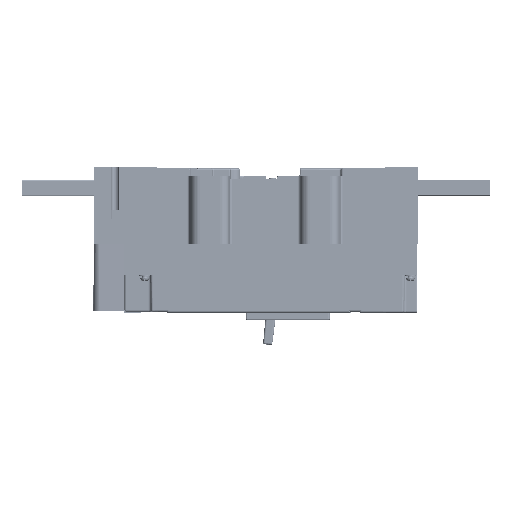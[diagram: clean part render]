
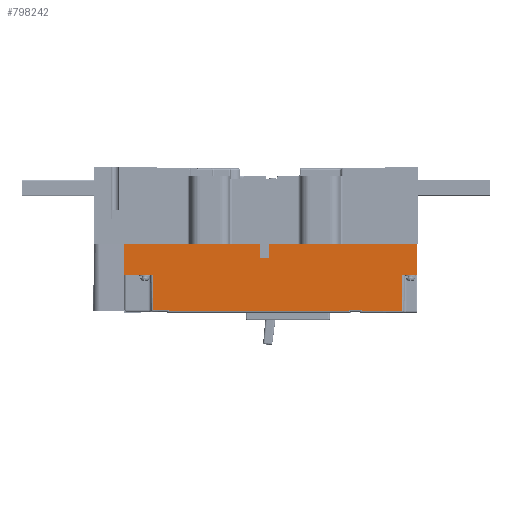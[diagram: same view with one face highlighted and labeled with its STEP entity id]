
A CAD part, left-side view. The second image highlights one B-rep face of the part: STEP entity #798242.
In plain terms, the highlighted planar face has unit normal (-1, 0, 0).
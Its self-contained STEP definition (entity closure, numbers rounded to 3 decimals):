
#53418 = CARTESIAN_POINT ( 'NONE',  ( -152.632, -4.608, -184.937 ) ) ;
#53421 = DIRECTION ( 'NONE',  ( 0., 0., -1. ) ) ;
#53425 = DIRECTION ( 'NONE',  ( 0., 0., -1. ) ) ;
#53497 = DIRECTION ( 'NONE',  ( 0., -1., 0. ) ) ;
#53533 = CARTESIAN_POINT ( 'NONE',  ( -152.632, -2.608, -182.937 ) ) ;
#53556 = DIRECTION ( 'NONE',  ( 0., -0.009, 1. ) ) ;
#53559 = CARTESIAN_POINT ( 'NONE',  ( -152.632, -49.968, -142.419 ) ) ;
#53921 = CARTESIAN_POINT ( 'NONE',  ( -152.632, -2.608, -181.737 ) ) ;
#54437 = CARTESIAN_POINT ( 'NONE',  ( -152.632, 210.957, -184.937 ) ) ;
#54903 = CARTESIAN_POINT ( 'NONE',  ( -152.632, -2.608, -182.937 ) ) ;
#55743 = DIRECTION ( 'NONE',  ( 0., -1., 0. ) ) ;
#56246 = CARTESIAN_POINT ( 'NONE',  ( -152.632, 9.767, -183.737 ) ) ;
#56514 = DIRECTION ( 'NONE',  ( 0., 0., 1. ) ) ;
#56766 = DIRECTION ( 'NONE',  ( 0., -1., 0. ) ) ;
#84056 = VERTEX_POINT ( 'NONE', #687552 ) ;
#84125 = VERTEX_POINT ( 'NONE', #686807 ) ;
#86497 = VERTEX_POINT ( 'NONE', #687467 ) ;
#86536 = VERTEX_POINT ( 'NONE', #687882 ) ;
#86776 = VERTEX_POINT ( 'NONE', #706342 ) ;
#86849 = VERTEX_POINT ( 'NONE', #705840 ) ;
#87485 = VERTEX_POINT ( 'NONE', #701079 ) ;
#87517 = VERTEX_POINT ( 'NONE', #700886 ) ;
#87526 = VERTEX_POINT ( 'NONE', #700818 ) ;
#87533 = VERTEX_POINT ( 'NONE', #700828 ) ;
#87540 = VERTEX_POINT ( 'NONE', #700651 ) ;
#87546 = VERTEX_POINT ( 'NONE', #700665 ) ;
#87553 = VERTEX_POINT ( 'NONE', #700604 ) ;
#87560 = VERTEX_POINT ( 'NONE', #700474 ) ;
#176800 = EDGE_CURVE ( 'NONE', #87560, #86849, #215712, .T. ) ;
#176816 = EDGE_CURVE ( 'NONE', #87553, #87560, #215792, .T. ) ;
#176832 = EDGE_CURVE ( 'NONE', #87546, #87553, #215812, .T. ) ;
#176847 = EDGE_CURVE ( 'NONE', #87540, #87546, #215856, .T. ) ;
#176863 = EDGE_CURVE ( 'NONE', #87533, #87540, #215896, .T. ) ;
#176879 = EDGE_CURVE ( 'NONE', #87526, #87533, #215940, .T. ) ;
#176885 = EDGE_CURVE ( 'NONE', #87517, #87526, #215922, .T. ) ;
#176909 = EDGE_CURVE ( 'NONE', #87485, #87517, #216001, .T. ) ;
#176927 = EDGE_CURVE ( 'NONE', #86497, #87485, #216034, .T. ) ;
#176941 = EDGE_CURVE ( 'NONE', #84056, #86536, #216078, .T. ) ;
#177071 = EDGE_CURVE ( 'NONE', #86776, #84125, #216355, .T. ) ;
#181750 = ORIENTED_EDGE ( 'NONE', *, *, #403054, .T. ) ;
#181764 = ORIENTED_EDGE ( 'NONE', *, *, #398929, .T. ) ;
#181783 = ORIENTED_EDGE ( 'NONE', *, *, #176941, .T. ) ;
#181800 = ORIENTED_EDGE ( 'NONE', *, *, #177071, .T. ) ;
#181819 = ORIENTED_EDGE ( 'NONE', *, *, #176847, .T. ) ;
#181839 = ORIENTED_EDGE ( 'NONE', *, *, #176832, .T. ) ;
#181856 = ORIENTED_EDGE ( 'NONE', *, *, #176816, .T. ) ;
#181876 = ORIENTED_EDGE ( 'NONE', *, *, #176800, .T. ) ;
#181894 = ORIENTED_EDGE ( 'NONE', *, *, #176879, .T. ) ;
#181910 = ORIENTED_EDGE ( 'NONE', *, *, #176863, .T. ) ;
#181929 = ORIENTED_EDGE ( 'NONE', *, *, #176909, .T. ) ;
#181948 = ORIENTED_EDGE ( 'NONE', *, *, #176885, .T. ) ;
#181967 = ORIENTED_EDGE ( 'NONE', *, *, #402672, .T. ) ;
#181987 = ORIENTED_EDGE ( 'NONE', *, *, #176927, .T. ) ;
#215712 = LINE ( 'NONE', #53559, #215730 ) ;
#215730 = VECTOR ( 'NONE', #53556, 1000. ) ;
#215792 = LINE ( 'NONE', #53533, #215796 ) ;
#215796 = VECTOR ( 'NONE', #53497, 1000. ) ;
#215808 = VECTOR ( 'NONE', #53425, 1000. ) ;
#215812 = LINE ( 'NONE', #53418, #215808 ) ;
#215856 = LINE ( 'NONE', #53921, #215868 ) ;
#215868 = VECTOR ( 'NONE', #56766, 1000. ) ;
#215884 = VECTOR ( 'NONE', #55743, 1000. ) ;
#215890 = VECTOR ( 'NONE', #56514, 1000. ) ;
#215896 = LINE ( 'NONE', #56246, #215890 ) ;
#215922 = LINE ( 'NONE', #54437, #215954 ) ;
#215940 = LINE ( 'NONE', #54903, #215884 ) ;
#215954 = VECTOR ( 'NONE', #53421, 1000. ) ;
#215990 = VECTOR ( 'NONE', #676400, 1000. ) ;
#216001 = LINE ( 'NONE', #676416, #215990 ) ;
#216032 = VECTOR ( 'NONE', #676199, 1000. ) ;
#216034 = LINE ( 'NONE', #676170, #216032 ) ;
#216057 = VECTOR ( 'NONE', #675847, 1000. ) ;
#216078 = LINE ( 'NONE', #675866, #216057 ) ;
#216345 = VECTOR ( 'NONE', #673310, 1000. ) ;
#216355 = LINE ( 'NONE', #673315, #216345 ) ;
#245666 = CARTESIAN_POINT ( 'NONE',  ( -152.632, -66.758, -108.087 ) ) ;
#245672 = DIRECTION ( 'NONE',  ( 0., 1., 0. ) ) ;
#264737 = VECTOR ( 'NONE', #245672, 1000. ) ;
#264751 = LINE ( 'NONE', #245666, #264737 ) ;
#306777 = DIRECTION ( 'NONE',  ( 0., -1., 0. ) ) ;
#306783 = CARTESIAN_POINT ( 'NONE',  ( -152.632, 260.557, -142.437 ) ) ;
#308728 = DIRECTION ( 'NONE',  ( 0., -1., 0. ) ) ;
#308732 = CARTESIAN_POINT ( 'NONE',  ( -152.632, -51.968, -142.437 ) ) ;
#311344 = VECTOR ( 'NONE', #306777, 1000. ) ;
#311363 = LINE ( 'NONE', #306783, #311344 ) ;
#311698 = VECTOR ( 'NONE', #308728, 1000. ) ;
#311718 = LINE ( 'NONE', #308732, #311698 ) ;
#398929 = EDGE_CURVE ( 'NONE', #84125, #84056, #264751, .T. ) ;
#402672 = EDGE_CURVE ( 'NONE', #86536, #86497, #311363, .T. ) ;
#403054 = EDGE_CURVE ( 'NONE', #86849, #86776, #311718, .T. ) ;
#590121 = EDGE_LOOP ( 'NONE', ( #181967, #181987, #181929, #181948, #181894, #181910, #181819, #181839, #181856, #181876, #181750, #181800, #181764, #181783 ) ) ;
#617598 = FACE_OUTER_BOUND ( 'NONE', #590121, .T. ) ;
#673310 = DIRECTION ( 'NONE',  ( 0., 0., 1. ) ) ;
#673315 = CARTESIAN_POINT ( 'NONE',  ( -152.632, -66.758, -142.437 ) ) ;
#675847 = DIRECTION ( 'NONE',  ( 0., 0., -1. ) ) ;
#675866 = CARTESIAN_POINT ( 'NONE',  ( -152.632, 260.557, -108.087 ) ) ;
#676170 = CARTESIAN_POINT ( 'NONE',  ( -152.632, 228.739, -183.719 ) ) ;
#676199 = DIRECTION ( 'NONE',  ( 0., -0.009, -1. ) ) ;
#676400 = DIRECTION ( 'NONE',  ( 0., -1., 0. ) ) ;
#676416 = CARTESIAN_POINT ( 'NONE',  ( -152.632, 212.957, -181.737 ) ) ;
#686807 = CARTESIAN_POINT ( 'NONE',  ( -152.632, -66.758, -108.087 ) ) ;
#687467 = CARTESIAN_POINT ( 'NONE',  ( -152.632, 229.099, -142.437 ) ) ;
#687552 = CARTESIAN_POINT ( 'NONE',  ( -152.632, 260.557, -108.087 ) ) ;
#687882 = CARTESIAN_POINT ( 'NONE',  ( -152.632, 260.557, -142.437 ) ) ;
#689015 = AXIS2_PLACEMENT_3D ( 'NONE', #751827, #751890, #751897 ) ;
#700474 = CARTESIAN_POINT ( 'NONE',  ( -152.632, -49.615, -182.937 ) ) ;
#700604 = CARTESIAN_POINT ( 'NONE',  ( -152.632, -4.608, -182.937 ) ) ;
#700651 = CARTESIAN_POINT ( 'NONE',  ( -152.632, 9.767, -181.737 ) ) ;
#700665 = CARTESIAN_POINT ( 'NONE',  ( -152.632, -4.608, -181.737 ) ) ;
#700818 = CARTESIAN_POINT ( 'NONE',  ( -152.632, 210.957, -182.937 ) ) ;
#700828 = CARTESIAN_POINT ( 'NONE',  ( -152.632, 9.767, -182.937 ) ) ;
#700886 = CARTESIAN_POINT ( 'NONE',  ( -152.632, 210.957, -181.737 ) ) ;
#701079 = CARTESIAN_POINT ( 'NONE',  ( -152.632, 228.756, -181.737 ) ) ;
#705840 = CARTESIAN_POINT ( 'NONE',  ( -152.632, -49.968, -142.437 ) ) ;
#706342 = CARTESIAN_POINT ( 'NONE',  ( -152.632, -66.758, -142.437 ) ) ;
#751827 = CARTESIAN_POINT ( 'NONE',  ( -152.632, -2.608, -184.937 ) ) ;
#751878 = PLANE ( 'NONE',  #689015 ) ;
#751890 = DIRECTION ( 'NONE',  ( -1., 0., 0. ) ) ;
#751897 = DIRECTION ( 'NONE',  ( 0., 1., 0. ) ) ;
#798242 = ADVANCED_FACE ( 'NONE', ( #617598 ), #751878, .T. ) ;
